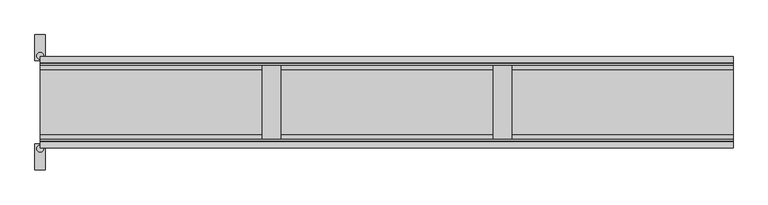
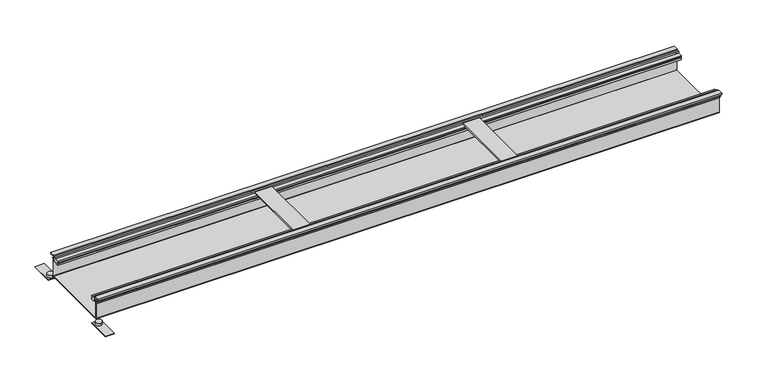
"""IFC4 building model written with IfcOpenShell, lengths in millimetres: proxy geometry, Electrical_Installation_Hager_BKW-Trunking-System-With-Trunking-Bottom-For-Dry-Cleaned-Floors : Nominal Size 300  Length 2.4 m."""

from ifc_helpers import new_model, si_unit, point, frame, frame_2d, origin, place, context, project, spatial, polyline, circle_curve, trimmed, segment, composite_curve, outline, extrude, source, transform, mapped, element, save


def electrical_fixtures_272c23cf(model_context):
    return source(origin(), model_context, "Body", "SweptSolid", [
        extrude(outline(composite_curve([segment(trimmed(circle_curve(frame_2d((0.0, 161.1652527)), 12.0), [point((0.0, 173.1652527))], [point((0.0, 149.1652527))], False, "CARTESIAN"), True, "CONTINUOUS"), segment(trimmed(circle_curve(frame_2d((0.0, 161.1652527)), 12.0), [point((0.0, 149.1652527))], [point((0.0, 173.1652527))], False, "CARTESIAN"), True, "CONTINUOUS")], self_intersect=False)), frame((0.0, 0.0, -85.5), z_axis=(0.0, 0.0, 1.0), x_axis=(1.0, 0.0, 0.0)), (0.0, 0.0, 1.0), 10.7),
        extrude(outline(composite_curve([segment(trimmed(circle_curve(frame_2d((0.0, -161.112037)), 12.0), [point((0.0, -149.112037))], [point((0.0, -173.112037))], False, "CARTESIAN"), True, "CONTINUOUS"), segment(trimmed(circle_curve(frame_2d((0.0, -161.112037)), 12.0), [point((0.0, -173.112037))], [point((0.0, -149.112037))], False, "CARTESIAN"), True, "CONTINUOUS")], self_intersect=False)), frame((0.0, 0.0, -85.5), z_axis=(0.0, 0.0, 1.0), x_axis=(1.0, 0.0, 0.0)), (0.0, 0.0, 1.0), 10.7),
        extrude(outline(polyline([(18.0, 144.1), (-18.0, 144.1), (-18.0, 234.1), (18.0, 234.1), (18.0, 144.1)])), frame((0.0, 0.0, -87.0), z_axis=(0.0, 0.0, 1.0), x_axis=(1.0, 0.0, 0.0)), (0.0, 0.0, 1.0), 1.5),
        extrude(outline(polyline([(18.0, -234.1), (-18.0, -234.1), (-18.0, -144.1), (18.0, -144.1), (18.0, -234.1)])), frame((0.0, 0.0, -87.0), z_axis=(0.0, 0.0, 1.0), x_axis=(1.0, 0.0, 0.0)), (0.0, 0.0, 1.0), 1.5),
        extrude(outline(polyline([(1633.5851476, 129.8), (1633.5851476, -129.8), (1568.585332, -129.8), (1568.585332, 129.8), (1633.5851476, 129.8)])), frame((0.0, 0.0, 2.5), z_axis=(0.0, 0.0, 1.0), x_axis=(1.0, 0.0, 0.0)), (0.0, 0.0, 1.0), 4.2),
        extrude(outline(polyline([(833.5851476, 129.8), (833.5851476, -129.8), (768.585332, -129.8), (768.585332, 129.8), (833.5851476, 129.8)])), frame((0.0, 0.0, 2.5), z_axis=(0.0, 0.0, 1.0), x_axis=(1.0, 0.0, 0.0)), (0.0, 0.0, 1.0), 4.2),
        extrude(outline(polyline([(158.0, 6.7), (140.0, 6.7), (140.0, -2.5), (150.475, -2.5), (150.475, -4.0), (144.6, -4.0), (144.6, -14.0), (143.1, -14.0), (143.1, -4.0), (135.1, -4.0), (135.1, -10.1), (123.3, -10.1), (123.3, -14.0), (113.1, -14.0), (113.1, -6.6607064), (116.0, -6.6607064), (116.0, -12.5), (120.7, -12.5), (120.7, 0.5), (116.0, 0.5), (116.0, -2.1), (112.9910979, -2.1), (112.9910979, 2.5), (129.8, 2.5), (129.8, 10.0), (135.0, 10.0), (135.0, -0.5), (138.0, -0.5), (138.0, 13.0), (158.0, 13.0), (158.0, 6.7)])), frame((0.0, 0.0, 0.0), z_axis=(1.0, 0.0, 0.0), x_axis=(0.0, 1.0, 0.0)), (0.0, 0.0, 1.0), 2400.0),
        extrude(outline(polyline([(-158.0, 6.7), (-158.0, 13.0), (-138.0, 13.0), (-138.0, -0.5), (-135.0, -0.5), (-135.0, 10.0), (-129.8, 10.0), (-129.8, 2.5), (-112.9910979, 2.5), (-112.9910979, -2.1), (-116.0, -2.1), (-116.0, 0.5), (-120.7, 0.5), (-120.7, -12.5), (-116.0, -12.5), (-116.0, -6.6607064), (-113.1, -6.6607064), (-113.1, -14.0), (-123.3, -14.0), (-123.3, -10.1), (-135.1, -10.1), (-135.1, -4.0), (-143.1, -4.0), (-143.1, -14.0), (-144.6, -14.0), (-144.6, -4.0), (-150.475, -4.0), (-150.475, -2.5), (-140.0, -2.5), (-140.0, 6.7), (-158.0, 6.7)])), frame((0.0, 0.0, 0.0), z_axis=(1.0, 0.0, 0.0), x_axis=(0.0, 1.0, 0.0)), (0.0, 0.0, 1.0), 2400.0),
        extrude(outline(composite_curve([segment(polyline([(141.0, -5.0), (136.0, -5.0), (136.0, -4.0), (141.0, -4.0)]), True, "CONTINUOUS"), segment(trimmed(circle_curve(frame_2d((141.0, -6.0)), 2.0), [point((141.0, -4.0))], [point((143.0, -6.0))], False, "CARTESIAN"), True, "CONTINUOUS"), segment(polyline([(143.0, -6.0), (143.0, -74.0)]), True, "CONTINUOUS"), segment(trimmed(circle_curve(frame_2d((141.0, -74.0)), 2.0), [point((143.0, -74.0))], [point((141.0, -76.0))], False, "CARTESIAN"), True, "CONTINUOUS"), segment(polyline([(141.0, -76.0), (-140.9892454, -76.0)]), True, "CONTINUOUS"), segment(trimmed(circle_curve(frame_2d((-140.9892454, -73.9892454)), 2.0107546), [point((-140.9892454, -76.0))], [point((-143.0, -73.9892454))], False, "CARTESIAN"), True, "CONTINUOUS"), segment(polyline([(-143.0, -73.9892454), (-143.0, -5.9843923)]), True, "CONTINUOUS"), segment(trimmed(circle_curve(frame_2d((-141.0156077, -5.9843923)), 1.9843923), [point((-143.0, -5.9843923))], [point((-141.0156077, -4.0))], False, "CARTESIAN"), True, "CONTINUOUS"), segment(polyline([(-141.0156077, -4.0), (-136.0, -4.0), (-136.0, -5.0), (-140.9930712, -5.0)]), True, "CONTINUOUS"), segment(trimmed(circle_curve(frame_2d((-140.9930712, -6.0069288)), 1.0069288), [point((-140.9930712, -5.0))], [point((-142.0, -6.0069288))], True, "CARTESIAN"), True, "CONTINUOUS"), segment(polyline([(-142.0, -6.0069288), (-142.0, -73.9588562)]), True, "CONTINUOUS"), segment(trimmed(circle_curve(frame_2d((-140.9588562, -73.9588562)), 1.0411438), [point((-142.0, -73.9588562))], [point((-140.9588562, -75.0))], True, "CARTESIAN"), True, "CONTINUOUS"), segment(polyline([(-140.9588562, -75.0), (141.0, -75.0)]), True, "CONTINUOUS"), segment(trimmed(circle_curve(frame_2d((141.0, -74.0)), 1.0), [point((141.0, -75.0))], [point((142.0, -74.0))], True, "CARTESIAN"), True, "CONTINUOUS"), segment(polyline([(142.0, -74.0), (142.0, -6.0)]), True, "CONTINUOUS"), segment(trimmed(circle_curve(frame_2d((141.0, -6.0)), 1.0), [point((142.0, -6.0))], [point((141.0, -5.0))], True, "CARTESIAN"), True, "CONTINUOUS")], self_intersect=False)), frame((0.0, 0.0, 0.0), z_axis=(1.0, 0.0, 0.0), x_axis=(0.0, 1.0, 0.0)), (0.0, 0.0, 1.0), 2400.0),
    ])


if __name__ == "__main__":
    model = new_model("IFC4")
    model_context = context("Model", 3, world=origin())
    ifc_project = project(units=[si_unit("LENGTHUNIT", "METRE", prefix="MILLI")], contexts=[model_context])
    site = spatial("IfcSite", under=ifc_project)
    building = spatial("IfcBuilding", under=site)
    placement = place(None, origin())
    electrical_fixtures_shape = electrical_fixtures_272c23cf(model_context)
    element("IfcBuildingElementProxy", 1, Name="Electrical_Installation_Hager_BKW-Trunking-System-With-Trunking-Bottom-For-Dry-Cleaned-Floors : Nominal Size 300  Length 2.4 m", ObjectType="Electrical_Installation_Hager_BKW-Trunking-System-With-Trunking-Bottom-For-Dry-Cleaned-Floors : Nominal Size 300  Length 2.4 m", at=placement, inside=building, context=model_context, shape_type="MappedRepresentation", body=[
        mapped(electrical_fixtures_shape, transform((0.0, 0.0, 0.0), x_axis=(1.0, 0.0, 0.0), y_axis=(0.0, 1.0, 0.0), z_axis=(0.0, 0.0, 1.0))),
    ])
    save(model, "model.ifc")
